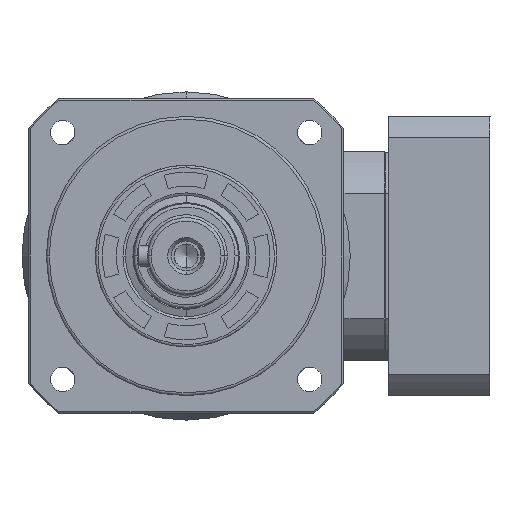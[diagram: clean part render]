
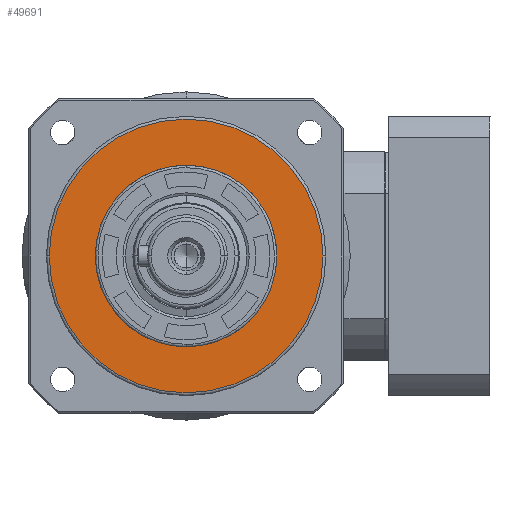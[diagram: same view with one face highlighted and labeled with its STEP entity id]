
A CAD part, left-side view. The second image highlights one B-rep face of the part: STEP entity #49691.
In plain terms, the highlighted planar face has unit normal (-1, 0, 0).
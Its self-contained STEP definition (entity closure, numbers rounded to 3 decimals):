
#385 = ORIENTED_EDGE ( 'NONE', *, *, #15612, .F. ) ;
#932 = ORIENTED_EDGE ( 'NONE', *, *, #18534, .F. ) ;
#1817 = CIRCLE ( 'NONE', #56361, 39.2 ) ;
#1917 = CARTESIAN_POINT ( 'NONE',  ( -60.004, -78.471, 118. ) ) ;
#1990 = AXIS2_PLACEMENT_3D ( 'NONE', #19061, #26749, #4280 ) ;
#4003 = DIRECTION ( 'NONE',  ( 0., 0., -1. ) ) ;
#4266 = CARTESIAN_POINT ( 'NONE',  ( -60.004, -0.071, 118. ) ) ;
#4280 = DIRECTION ( 'NONE',  ( 0., 0., 1. ) ) ;
#4901 = ORIENTED_EDGE ( 'NONE', *, *, #22738, .F. ) ;
#7745 = AXIS2_PLACEMENT_3D ( 'NONE', #53746, #8763, #4003 ) ;
#8763 = DIRECTION ( 'NONE',  ( 1., 0., 0. ) ) ;
#10059 = CARTESIAN_POINT ( 'NONE',  ( -60.004, -39.271, 92. ) ) ;
#13443 = CARTESIAN_POINT ( 'NONE',  ( -60.004, -39.271, 144. ) ) ;
#14086 = CARTESIAN_POINT ( 'NONE',  ( -60.004, -39.271, 118. ) ) ;
#15607 = DIRECTION ( 'NONE',  ( 1., 0., 0. ) ) ;
#15612 = EDGE_CURVE ( 'NONE', #32624, #34063, #40972, .T. ) ;
#18534 = EDGE_CURVE ( 'NONE', #33433, #53403, #1817, .T. ) ;
#18748 = ORIENTED_EDGE ( 'NONE', *, *, #49171, .F. ) ;
#19061 = CARTESIAN_POINT ( 'NONE',  ( -60.004, -39.271, 118. ) ) ;
#19382 = DIRECTION ( 'NONE',  ( 1., 0., 0. ) ) ;
#22738 = EDGE_CURVE ( 'NONE', #53403, #33433, #35812, .T. ) ;
#23835 = CARTESIAN_POINT ( 'NONE',  ( -60.004, -39.271, 118. ) ) ;
#26460 = FACE_OUTER_BOUND ( 'NONE', #37727, .T. ) ;
#26749 = DIRECTION ( 'NONE',  ( -1., 0., 0. ) ) ;
#28595 = CARTESIAN_POINT ( 'NONE',  ( -60.004, -39.271, 118. ) ) ;
#32587 = AXIS2_PLACEMENT_3D ( 'NONE', #14086, #54672, #45818 ) ;
#32624 = VERTEX_POINT ( 'NONE', #13443 ) ;
#33433 = VERTEX_POINT ( 'NONE', #4266 ) ;
#34063 = VERTEX_POINT ( 'NONE', #10059 ) ;
#35812 = CIRCLE ( 'NONE', #54534, 39.2 ) ;
#35860 = FACE_BOUND ( 'NONE', #56522, .T. ) ;
#37727 = EDGE_LOOP ( 'NONE', ( #4901, #932 ) ) ;
#40972 = CIRCLE ( 'NONE', #32587, 26. ) ;
#45818 = DIRECTION ( 'NONE',  ( 0., 0., 1. ) ) ;
#46983 = DIRECTION ( 'NONE',  ( 0., -1., 0. ) ) ;
#47026 = DIRECTION ( 'NONE',  ( 0., -1., 0. ) ) ;
#48056 = CIRCLE ( 'NONE', #1990, 26. ) ;
#48462 = PLANE ( 'NONE',  #7745 ) ;
#49171 = EDGE_CURVE ( 'NONE', #34063, #32624, #48056, .T. ) ;
#49691 = ADVANCED_FACE ( 'NONE', ( #26460, #35860 ), #48462, .F. ) ;
#53403 = VERTEX_POINT ( 'NONE', #1917 ) ;
#53746 = CARTESIAN_POINT ( 'NONE',  ( -60.004, -39.271, 118. ) ) ;
#54534 = AXIS2_PLACEMENT_3D ( 'NONE', #23835, #19382, #46983 ) ;
#54672 = DIRECTION ( 'NONE',  ( -1., 0., 0. ) ) ;
#56361 = AXIS2_PLACEMENT_3D ( 'NONE', #28595, #15607, #47026 ) ;
#56522 = EDGE_LOOP ( 'NONE', ( #385, #18748 ) ) ;
